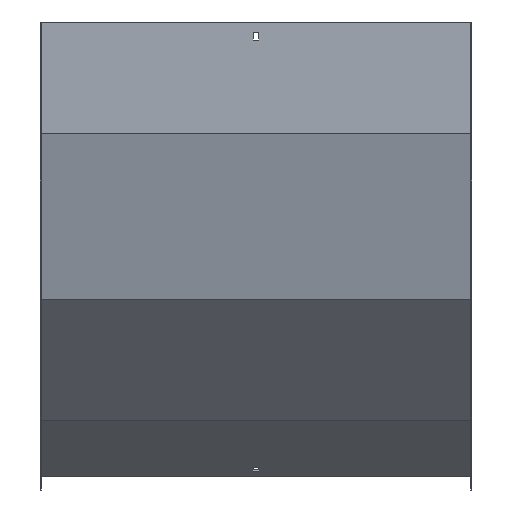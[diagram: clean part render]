
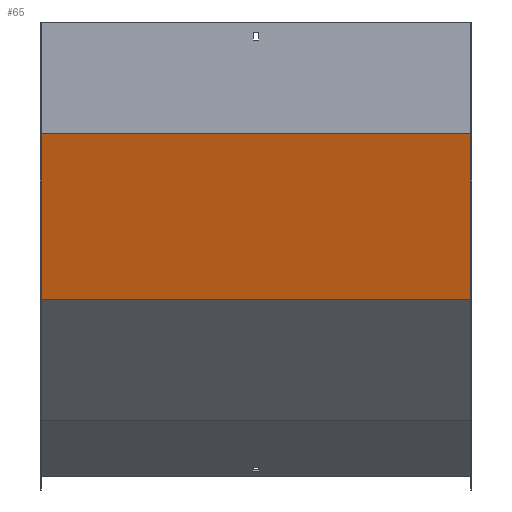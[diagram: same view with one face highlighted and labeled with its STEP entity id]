
A CAD part, front view. The second image highlights one B-rep face of the part: STEP entity #65.
In plain terms, the highlighted planar face has unit normal (0, -0.966, -0.259).
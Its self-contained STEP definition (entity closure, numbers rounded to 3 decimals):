
#5 = CARTESIAN_POINT ( 'NONE',  ( -250., 50.16, -322.996 ) ) ;
#32 = DIRECTION ( 'NONE',  ( -1., 0., 0. ) ) ;
#42 = ORIENTED_EDGE ( 'NONE', *, *, #876, .T. ) ;
#50 = FACE_OUTER_BOUND ( 'NONE', #534, .T. ) ;
#61 = PLANE ( 'NONE',  #393 ) ;
#65 = ADVANCED_FACE ( 'NONE', ( #50 ), #61, .F. ) ;
#101 = LINE ( 'NONE', #936, #378 ) ;
#117 = VECTOR ( 'NONE', #760, 1000. ) ;
#134 = DIRECTION ( 'NONE',  ( 0., 0.259, -0.966 ) ) ;
#160 = DIRECTION ( 'NONE',  ( 0., 0.259, -0.966 ) ) ;
#193 = DIRECTION ( 'NONE',  ( 0., -0.259, 0.966 ) ) ;
#271 = VERTEX_POINT ( 'NONE', #5 ) ;
#275 = EDGE_CURVE ( 'NONE', #657, #271, #826, .T. ) ;
#302 = VERTEX_POINT ( 'NONE', #886 ) ;
#308 = EDGE_CURVE ( 'NONE', #706, #657, #412, .T. ) ;
#359 = VECTOR ( 'NONE', #134, 1000. ) ;
#378 = VECTOR ( 'NONE', #160, 1000. ) ;
#391 = CARTESIAN_POINT ( 'NONE',  ( 250., -1.5, -130.197 ) ) ;
#393 = AXIS2_PLACEMENT_3D ( 'NONE', #577, #658, #193 ) ;
#412 = LINE ( 'NONE', #966, #359 ) ;
#488 = ORIENTED_EDGE ( 'NONE', *, *, #943, .T. ) ;
#492 = CARTESIAN_POINT ( 'NONE',  ( 251.5, -1.5, -130.197 ) ) ;
#531 = CARTESIAN_POINT ( 'NONE',  ( 250., 50.16, -322.996 ) ) ;
#534 = EDGE_LOOP ( 'NONE', ( #42, #538, #923, #488 ) ) ;
#538 = ORIENTED_EDGE ( 'NONE', *, *, #275, .F. ) ;
#577 = CARTESIAN_POINT ( 'NONE',  ( 251.5, -1.449, -130.388 ) ) ;
#632 = VECTOR ( 'NONE', #32, 1000. ) ;
#657 = VERTEX_POINT ( 'NONE', #531 ) ;
#658 = DIRECTION ( 'NONE',  ( 0., 0.966, 0.259 ) ) ;
#705 = LINE ( 'NONE', #492, #632 ) ;
#706 = VERTEX_POINT ( 'NONE', #391 ) ;
#745 = CARTESIAN_POINT ( 'NONE',  ( 251.5, 50.16, -322.996 ) ) ;
#760 = DIRECTION ( 'NONE',  ( -1., 0., 0. ) ) ;
#826 = LINE ( 'NONE', #745, #117 ) ;
#876 = EDGE_CURVE ( 'NONE', #302, #271, #101, .T. ) ;
#886 = CARTESIAN_POINT ( 'NONE',  ( -250., -1.5, -130.197 ) ) ;
#923 = ORIENTED_EDGE ( 'NONE', *, *, #308, .F. ) ;
#936 = CARTESIAN_POINT ( 'NONE',  ( -250., -33.949, -9.097 ) ) ;
#943 = EDGE_CURVE ( 'NONE', #706, #302, #705, .T. ) ;
#966 = CARTESIAN_POINT ( 'NONE',  ( 250., -33.949, -9.097 ) ) ;
